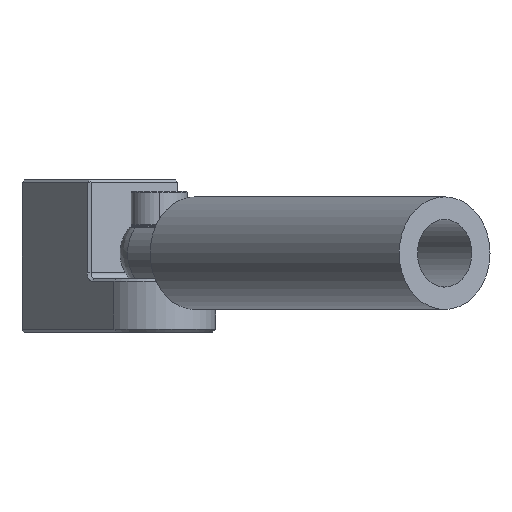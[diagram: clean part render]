
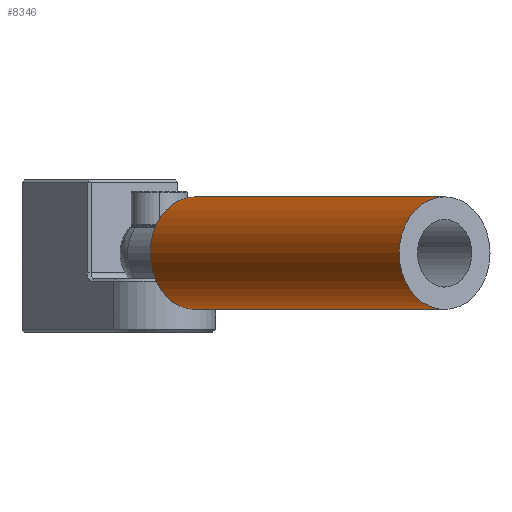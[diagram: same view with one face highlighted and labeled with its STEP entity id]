
A CAD part, left-side view. The second image highlights one B-rep face of the part: STEP entity #8346.
In plain terms, the highlighted cylindrical face has radius 10 mm (diameter 20 mm), a partial arc.
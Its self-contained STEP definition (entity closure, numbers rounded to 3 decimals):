
#25 = EDGE_CURVE ( 'NONE', #4457, #6107, #2073, .T. ) ;
#101 = CARTESIAN_POINT ( 'NONE',  ( -66.411, -52.208, -9.5 ) ) ;
#215 = VERTEX_POINT ( 'NONE', #4868 ) ;
#251 = EDGE_LOOP ( 'NONE', ( #4296, #4397, #2947, #3540, #695 ) ) ;
#365 = EDGE_CURVE ( 'NONE', #6107, #867, #2516, .T. ) ;
#436 = VECTOR ( 'NONE', #5573, 1000. ) ;
#557 = CARTESIAN_POINT ( 'NONE',  ( -66.411, -52.208, 0.5 ) ) ;
#695 = ORIENTED_EDGE ( 'NONE', *, *, #365, .F. ) ;
#748 = EDGE_CURVE ( 'NONE', #5354, #867, #2469, .T. ) ;
#764 = DIRECTION ( 'NONE',  ( 0., 0., -1. ) ) ;
#867 = VERTEX_POINT ( 'NONE', #101 ) ;
#1102 = CARTESIAN_POINT ( 'NONE',  ( -66.411, -52.208, 10.5 ) ) ;
#1224 = CARTESIAN_POINT ( 'NONE',  ( -6.437, -8.01, 0.5 ) ) ;
#1730 = DIRECTION ( 'NONE',  ( -0.805, -0.593, 0. ) ) ;
#1755 = CARTESIAN_POINT ( 'NONE',  ( -6.437, -8.01, 0.5 ) ) ;
#2073 = LINE ( 'NONE', #4564, #4217 ) ;
#2469 = LINE ( 'NONE', #6371, #436 ) ;
#2489 = DIRECTION ( 'NONE',  ( -0.805, -0.593, 0. ) ) ;
#2516 = CIRCLE ( 'NONE', #4815, 10. ) ;
#2947 = ORIENTED_EDGE ( 'NONE', *, *, #3315, .T. ) ;
#3315 = EDGE_CURVE ( 'NONE', #215, #5354, #5008, .T. ) ;
#3540 = ORIENTED_EDGE ( 'NONE', *, *, #748, .T. ) ;
#3683 = DIRECTION ( 'NONE',  ( 0., 0., -1. ) ) ;
#3724 = EDGE_CURVE ( 'NONE', #4457, #215, #6888, .T. ) ;
#3955 = CARTESIAN_POINT ( 'NONE',  ( -6.437, -8.01, 0.5 ) ) ;
#4217 = VECTOR ( 'NONE', #5204, 1000. ) ;
#4296 = ORIENTED_EDGE ( 'NONE', *, *, #25, .F. ) ;
#4325 = DIRECTION ( 'NONE',  ( -0.805, -0.593, 0. ) ) ;
#4397 = ORIENTED_EDGE ( 'NONE', *, *, #3724, .T. ) ;
#4413 = CYLINDRICAL_SURFACE ( 'NONE', #5049, 10. ) ;
#4457 = VERTEX_POINT ( 'NONE', #4664 ) ;
#4564 = CARTESIAN_POINT ( 'NONE',  ( -6.437, -8.01, 10.5 ) ) ;
#4664 = CARTESIAN_POINT ( 'NONE',  ( -6.437, -8.01, 10.5 ) ) ;
#4815 = AXIS2_PLACEMENT_3D ( 'NONE', #557, #2489, #7701 ) ;
#4868 = CARTESIAN_POINT ( 'NONE',  ( -12.37, 0.04, 0.5 ) ) ;
#4892 = CARTESIAN_POINT ( 'NONE',  ( -6.437, -8.01, -9.5 ) ) ;
#5008 = CIRCLE ( 'NONE', #6621, 10. ) ;
#5049 = AXIS2_PLACEMENT_3D ( 'NONE', #1755, #4325, #3683 ) ;
#5050 = FACE_OUTER_BOUND ( 'NONE', #251, .T. ) ;
#5066 = DIRECTION ( 'NONE',  ( 0., 0., -1. ) ) ;
#5204 = DIRECTION ( 'NONE',  ( -0.805, -0.593, 0. ) ) ;
#5354 = VERTEX_POINT ( 'NONE', #4892 ) ;
#5573 = DIRECTION ( 'NONE',  ( -0.805, -0.593, 0. ) ) ;
#6107 = VERTEX_POINT ( 'NONE', #1102 ) ;
#6371 = CARTESIAN_POINT ( 'NONE',  ( -6.437, -8.01, -9.5 ) ) ;
#6547 = DIRECTION ( 'NONE',  ( -0.805, -0.593, 0. ) ) ;
#6621 = AXIS2_PLACEMENT_3D ( 'NONE', #1224, #1730, #5066 ) ;
#6888 = CIRCLE ( 'NONE', #7705, 10. ) ;
#7701 = DIRECTION ( 'NONE',  ( 0.593, -0.805, 0. ) ) ;
#7705 = AXIS2_PLACEMENT_3D ( 'NONE', #3955, #6547, #764 ) ;
#8346 = ADVANCED_FACE ( 'NONE', ( #5050 ), #4413, .T. ) ;
